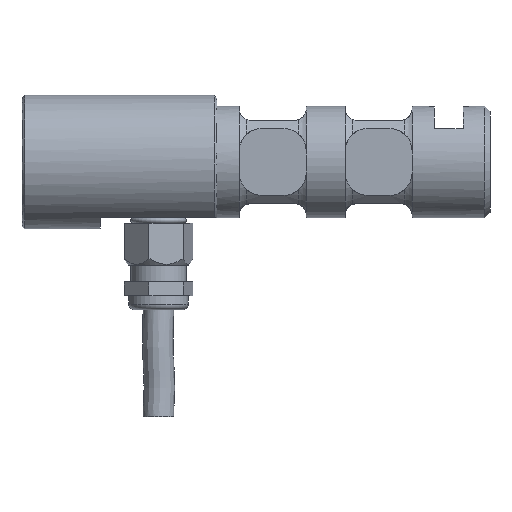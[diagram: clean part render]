
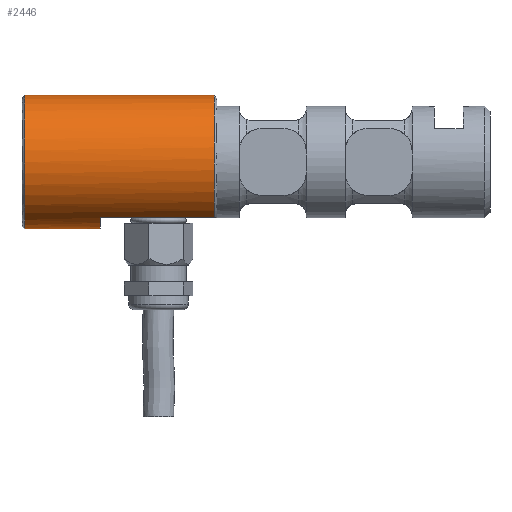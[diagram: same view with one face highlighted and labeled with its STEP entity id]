
A CAD part, top view. The second image highlights one B-rep face of the part: STEP entity #2446.
In plain terms, the highlighted cylindrical face has radius 12 mm (diameter 24 mm), a full revolution.
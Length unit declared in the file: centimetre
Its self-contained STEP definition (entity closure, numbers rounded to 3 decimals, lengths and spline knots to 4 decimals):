
#765=VECTOR('',#4115,1.);
#767=VECTOR('',#4117,1.);
#884=LINE('',#2777,#765);
#886=LINE('',#2781,#767);
#1002=CYLINDRICAL_SURFACE('',#2584,1.2);
#1049=VERTEX_POINT('',#2765);
#1052=VERTEX_POINT('',#2772);
#1054=VERTEX_POINT('',#2778);
#1055=VERTEX_POINT('',#2780);
#1057=VERTEX_POINT('',#2787);
#1228=CIRCLE('',#2581,1.2);
#1230=CIRCLE('',#2585,1.2);
#1231=CIRCLE('',#2586,1.2);
#1292=EDGE_CURVE('',#1052,#1049,#1228,.T.);
#1294=EDGE_CURVE('',#1054,#1049,#884,.T.);
#1296=EDGE_CURVE('',#1052,#1055,#886,.T.);
#1299=EDGE_CURVE('',#1057,#1057,#1230,.T.);
#1300=EDGE_CURVE('',#1055,#1054,#1231,.T.);
#1588=ORIENTED_EDGE('',*,*,#1299,.F.);
#1589=ORIENTED_EDGE('',*,*,#1292,.F.);
#1590=ORIENTED_EDGE('',*,*,#1296,.T.);
#1591=ORIENTED_EDGE('',*,*,#1300,.T.);
#1592=ORIENTED_EDGE('',*,*,#1294,.T.);
#2139=EDGE_LOOP('',(#1588));
#2140=EDGE_LOOP('',(#1589,#1590,#1591,#1592));
#2294=FACE_BOUND('',#2139,.T.);
#2295=FACE_BOUND('',#2140,.T.);
#2446=ADVANCED_FACE('',(#2294,#2295),#1002,.T.);
#2581=AXIS2_PLACEMENT_3D('',#2773,#4110,#4111);
#2584=AXIS2_PLACEMENT_3D('',#2785,#4120,#4121);
#2585=AXIS2_PLACEMENT_3D('',#2786,#4122,#4123);
#2586=AXIS2_PLACEMENT_3D('',#2788,#4124,#4125);
#2765=CARTESIAN_POINT('',(-0.05,-1.,0.6633));
#2772=CARTESIAN_POINT('',(-0.05,-1.,-0.6633));
#2773=CARTESIAN_POINT('',(-0.05,0.,0.));
#2777=CARTESIAN_POINT('',(-1.05,-1.,0.6633));
#2778=CARTESIAN_POINT('',(-2.1,-1.,0.6633));
#2780=CARTESIAN_POINT('',(-2.1,-1.,-0.6633));
#2781=CARTESIAN_POINT('',(-1.05,-1.,-0.6633));
#2785=CARTESIAN_POINT('',(-3.5,0.,0.));
#2786=CARTESIAN_POINT('',(-3.45,0.,0.));
#2787=CARTESIAN_POINT('',(-3.45,0.,-1.2));
#2788=CARTESIAN_POINT('',(-2.1,0.,0.));
#4110=DIRECTION('',(1.,0.,0.));
#4111=DIRECTION('',(0.,1.2,0.));
#4115=DIRECTION('',(1.,0.,0.));
#4117=DIRECTION('',(-1.,0.,0.));
#4120=DIRECTION('',(1.,0.,0.));
#4121=DIRECTION('',(0.,0.,-1.2));
#4122=DIRECTION('',(-1.,0.,0.));
#4123=DIRECTION('',(0.,0.,1.2));
#4124=DIRECTION('',(-1.,0.,0.));
#4125=DIRECTION('',(0.,0.,-1.2));
